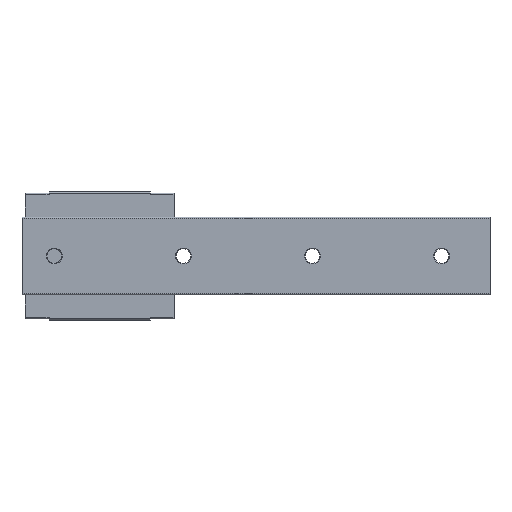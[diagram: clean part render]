
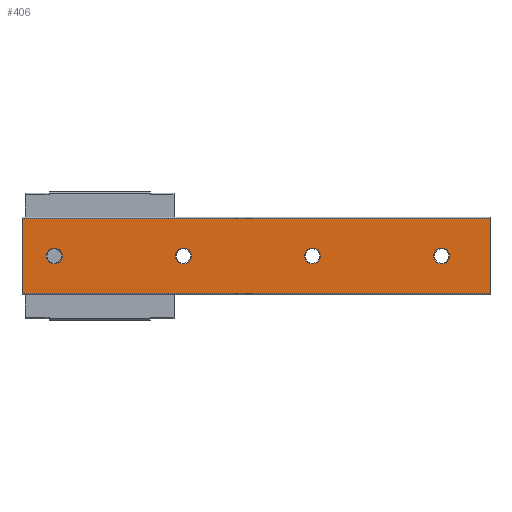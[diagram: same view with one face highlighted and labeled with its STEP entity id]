
A CAD part, front view. The second image highlights one B-rep face of the part: STEP entity #406.
In plain terms, the highlighted planar face has unit normal (0, -1, 0).
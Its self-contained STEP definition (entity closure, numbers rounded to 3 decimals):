
#406 = ADVANCED_FACE( '', ( #824, #825, #826, #827, #828 ), #829, .F. );
#824 = FACE_BOUND( '', #1230, .T. );
#825 = FACE_BOUND( '', #1231, .T. );
#826 = FACE_BOUND( '', #1232, .T. );
#827 = FACE_BOUND( '', #1233, .T. );
#828 = FACE_OUTER_BOUND( '', #1234, .T. );
#829 = PLANE( '', #1235 );
#1230 = EDGE_LOOP( '', ( #2198 ) );
#1231 = EDGE_LOOP( '', ( #2199 ) );
#1232 = EDGE_LOOP( '', ( #2200 ) );
#1233 = EDGE_LOOP( '', ( #2201 ) );
#1234 = EDGE_LOOP( '', ( #2202, #2203, #2204, #2205 ) );
#1235 = AXIS2_PLACEMENT_3D( '', #2206, #2207, #2208 );
#2198 = ORIENTED_EDGE( '', *, *, #2628, .F. );
#2199 = ORIENTED_EDGE( '', *, *, #2467, .F. );
#2200 = ORIENTED_EDGE( '', *, *, #2603, .F. );
#2201 = ORIENTED_EDGE( '', *, *, #2625, .F. );
#2202 = ORIENTED_EDGE( '', *, *, #2506, .T. );
#2203 = ORIENTED_EDGE( '', *, *, #2543, .F. );
#2204 = ORIENTED_EDGE( '', *, *, #2630, .F. );
#2205 = ORIENTED_EDGE( '', *, *, #2616, .T. );
#2206 = CARTESIAN_POINT( '', ( 145., 0., 11.7 ) );
#2207 = DIRECTION( '', ( 0., 1., 0. ) );
#2208 = DIRECTION( '', ( 0., 0., 1. ) );
#2467 = EDGE_CURVE( '', #2991, #2991, #2992, .T. );
#2506 = EDGE_CURVE( '', #3053, #3051, #3054, .T. );
#2543 = EDGE_CURVE( '', #3100, #3051, #3102, .T. );
#2603 = EDGE_CURVE( '', #3173, #3173, #3174, .T. );
#2616 = EDGE_CURVE( '', #3189, #3053, #3190, .T. );
#2625 = EDGE_CURVE( '', #3199, #3199, #3200, .T. );
#2628 = EDGE_CURVE( '', #3203, #3203, #3204, .T. );
#2630 = EDGE_CURVE( '', #3189, #3100, #3206, .T. );
#2991 = VERTEX_POINT( '', #3682 );
#2992 = CIRCLE( '', #3683, 2.455 );
#3051 = VERTEX_POINT( '', #3762 );
#3053 = VERTEX_POINT( '', #3765 );
#3054 = LINE( '', #3766, #3767 );
#3100 = VERTEX_POINT( '', #3829 );
#3102 = LINE( '', #3832, #3833 );
#3173 = VERTEX_POINT( '', #3931 );
#3174 = CIRCLE( '', #3932, 2.455 );
#3189 = VERTEX_POINT( '', #3949 );
#3190 = LINE( '', #3950, #3951 );
#3199 = VERTEX_POINT( '', #3962 );
#3200 = CIRCLE( '', #3963, 2.455 );
#3203 = VERTEX_POINT( '', #3966 );
#3204 = CIRCLE( '', #3967, 2.455 );
#3206 = LINE( '', #3969, #3970 );
#3682 = CARTESIAN_POINT( '', ( 90., 0., -2.455 ) );
#3683 = AXIS2_PLACEMENT_3D( '', #4242, #4243, #4244 );
#3762 = CARTESIAN_POINT( '', ( 0., 0., -11.7 ) );
#3765 = CARTESIAN_POINT( '', ( 0., 0., 11.7 ) );
#3766 = CARTESIAN_POINT( '', ( 0., 0., 11.7 ) );
#3767 = VECTOR( '', #4287, 1000. );
#3829 = CARTESIAN_POINT( '', ( 145., 0., -11.7 ) );
#3832 = CARTESIAN_POINT( '', ( 145., 0., -11.7 ) );
#3833 = VECTOR( '', #4326, 1000. );
#3931 = CARTESIAN_POINT( '', ( 130., 0., -2.455 ) );
#3932 = AXIS2_PLACEMENT_3D( '', #4381, #4382, #4383 );
#3949 = CARTESIAN_POINT( '', ( 145., 0., 11.7 ) );
#3950 = CARTESIAN_POINT( '', ( 145., 0., 11.7 ) );
#3951 = VECTOR( '', #4389, 1000. );
#3962 = CARTESIAN_POINT( '', ( 50., 0., -2.455 ) );
#3963 = AXIS2_PLACEMENT_3D( '', #4395, #4396, #4397 );
#3966 = CARTESIAN_POINT( '', ( 10., 0., -2.455 ) );
#3967 = AXIS2_PLACEMENT_3D( '', #4398, #4399, #4400 );
#3969 = CARTESIAN_POINT( '', ( 145., 0., 11.7 ) );
#3970 = VECTOR( '', #4401, 1000. );
#4242 = CARTESIAN_POINT( '', ( 90., 0., 0. ) );
#4243 = DIRECTION( '', ( 0., -1., 0. ) );
#4244 = DIRECTION( '', ( 0., 0., -1. ) );
#4287 = DIRECTION( '', ( 0., 0., -1. ) );
#4326 = DIRECTION( '', ( -1., 0., 0. ) );
#4381 = CARTESIAN_POINT( '', ( 130., 0., 0. ) );
#4382 = DIRECTION( '', ( 0., -1., 0. ) );
#4383 = DIRECTION( '', ( 0., 0., -1. ) );
#4389 = DIRECTION( '', ( -1., 0., 0. ) );
#4395 = CARTESIAN_POINT( '', ( 50., 0., 0. ) );
#4396 = DIRECTION( '', ( 0., -1., 0. ) );
#4397 = DIRECTION( '', ( 0., 0., -1. ) );
#4398 = CARTESIAN_POINT( '', ( 10., 0., 0. ) );
#4399 = DIRECTION( '', ( 0., -1., 0. ) );
#4400 = DIRECTION( '', ( 0., 0., -1. ) );
#4401 = DIRECTION( '', ( 0., 0., -1. ) );
